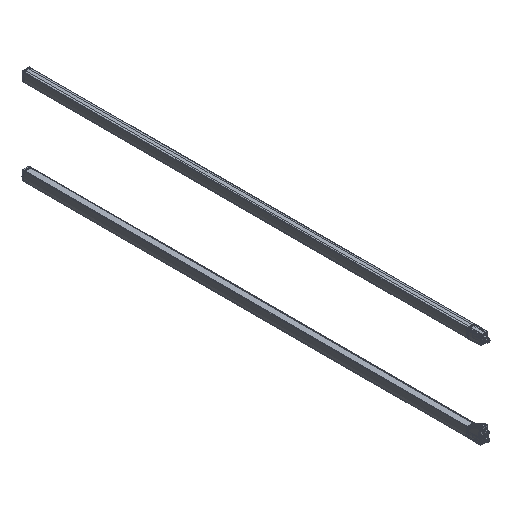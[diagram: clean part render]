
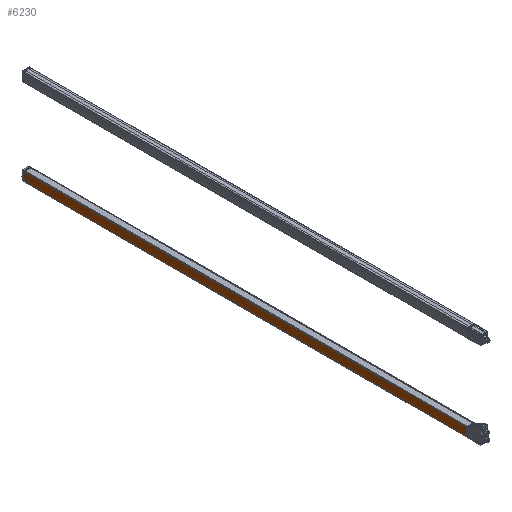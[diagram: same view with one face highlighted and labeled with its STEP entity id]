
A CAD part, isometric view. The second image highlights one B-rep face of the part: STEP entity #6230.
In plain terms, the highlighted cylindrical face has radius 250 mm (diameter 500 mm), a partial arc.
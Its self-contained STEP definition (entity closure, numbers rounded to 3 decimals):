
#5486=CYLINDRICAL_SURFACE('',#62400,250.);
#6230=ADVANCED_FACE('',(#11306),#5486,.T.);
#11306=FACE_OUTER_BOUND('',#14403,.T.);
#14403=EDGE_LOOP('',(#20436,#20437,#20438,#20439));
#18151=CIRCLE('',#62310,250.);
#18198=CIRCLE('',#62399,250.);
#20436=ORIENTED_EDGE('',*,*,#43580,.T.);
#20437=ORIENTED_EDGE('',*,*,#43704,.F.);
#20438=ORIENTED_EDGE('',*,*,#43705,.T.);
#20439=ORIENTED_EDGE('',*,*,#43702,.F.);
#37863=VERTEX_POINT('',#83368);
#37864=VERTEX_POINT('',#83370);
#37945=VERTEX_POINT('',#83614);
#37946=VERTEX_POINT('',#83618);
#43580=EDGE_CURVE('',#37864,#37863,#18151,.T.);
#43702=EDGE_CURVE('',#37864,#37945,#52469,.T.);
#43704=EDGE_CURVE('',#37946,#37863,#52470,.T.);
#43705=EDGE_CURVE('',#37946,#37945,#18198,.T.);
#52469=LINE('',#83613,#57387);
#52470=LINE('',#83617,#57388);
#57387=VECTOR('',#67877,1.);
#57388=VECTOR('',#67882,1.);
#62310=AXIS2_PLACEMENT_3D('',#83369,#67627,#67628);
#62399=AXIS2_PLACEMENT_3D('',#83619,#67883,#67884);
#62400=AXIS2_PLACEMENT_3D('',#83620,#67885,#67886);
#67627=DIRECTION('',(0.,0.,1.));
#67628=DIRECTION('',(-0.998,0.067,0.));
#67877=DIRECTION('',(0.,0.,1.));
#67882=DIRECTION('',(0.,0.,-1.));
#67883=DIRECTION('',(0.,0.,-1.));
#67884=DIRECTION('',(-0.998,0.067,0.));
#67885=DIRECTION('',(0.,0.,-1.));
#67886=DIRECTION('',(0.998,-0.067,0.));
#83368=CARTESIAN_POINT('',(13.731,16.86,-1682.));
#83369=CARTESIAN_POINT('',(-235.7,0.,-1682.));
#83370=CARTESIAN_POINT('',(13.793,-15.907,-1682.));
#83613=CARTESIAN_POINT('',(13.793,-15.907,-452.));
#83614=CARTESIAN_POINT('',(13.793,-15.907,0.));
#83617=CARTESIAN_POINT('',(13.731,16.86,0.));
#83618=CARTESIAN_POINT('',(13.731,16.86,0.));
#83619=CARTESIAN_POINT('',(-235.7,0.,0.));
#83620=CARTESIAN_POINT('',(-235.7,0.,0.));
